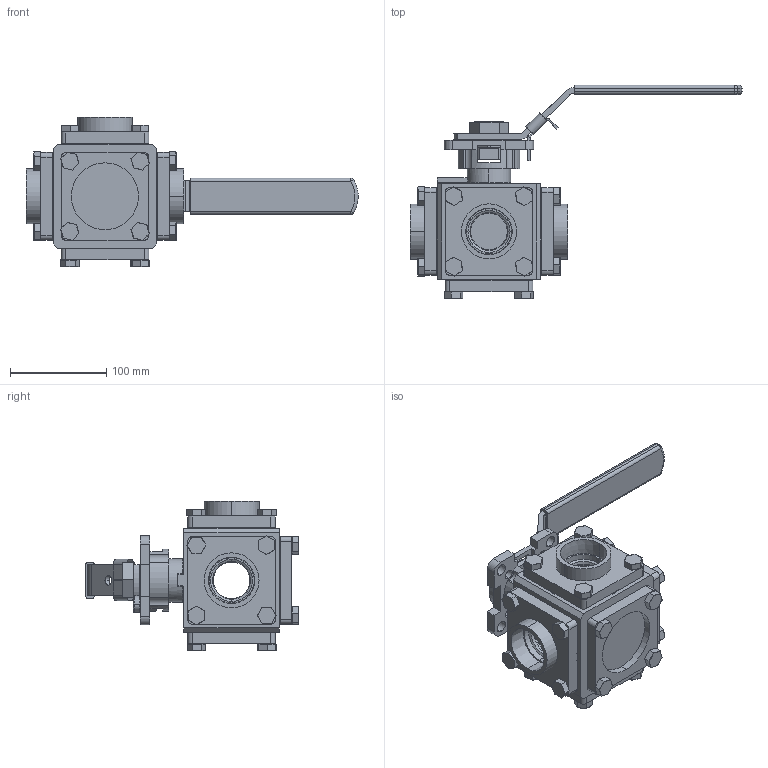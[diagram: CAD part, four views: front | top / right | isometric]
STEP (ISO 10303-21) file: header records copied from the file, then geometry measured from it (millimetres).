
FILE_DESCRIPTION (( 'STEP AP214' ), '1' );
FILE_NAME ('33-TH-0150-XXX.step', '2019-09-30T20:19:40', ( '' ), ( '' ), 'SwSTEP 2.0', 'SolidWorks 2019', '' );
FILE_SCHEMA (( 'AUTOMOTIVE_DESIGN' ));
Length unit declared in the file: inch
Products named in the file (2): 33-TH-0150-XXX
Bounding box: 344.85 x 221.52 x 155.14 mm (x, y, z)
Surface area: 215121.8 mm2 (no closed solid volume)
Topology: 0 solids, 40 shells, 592 faces, 1643 edges, 1081 vertices
Faces by surface type: plane 437, cylinder 116, cone 24, torus 9, sphere 4, bspline 2
Entity records: 26442 total; most frequent: CARTESIAN_POINT 3605, DIRECTION 3178, ORIENTED_EDGE 2802, EDGE_CURVE 1639, LINE 1210, VECTOR 1210, VERTEX_POINT 1081, AXIS2_PLACEMENT_3D 984
